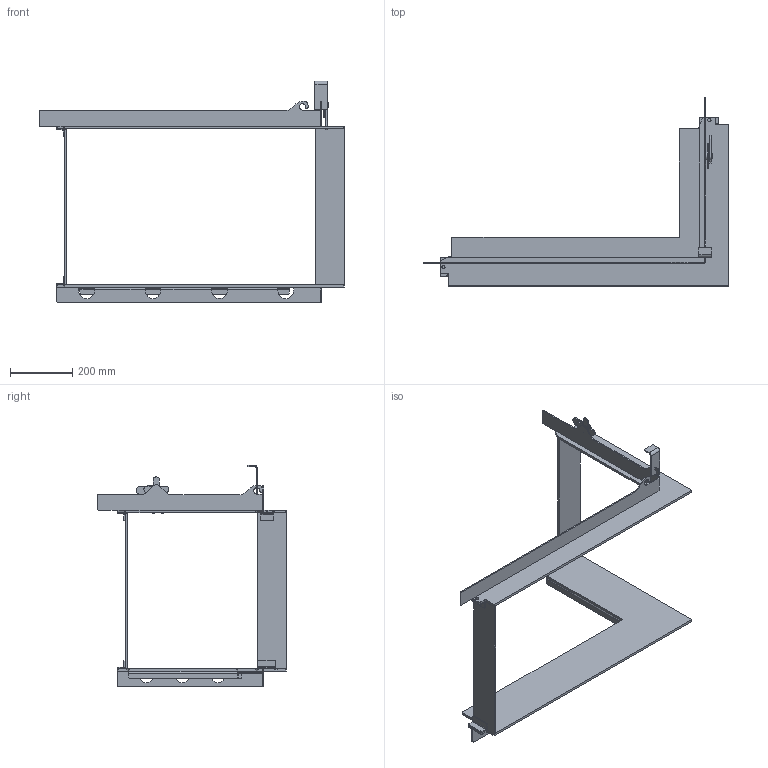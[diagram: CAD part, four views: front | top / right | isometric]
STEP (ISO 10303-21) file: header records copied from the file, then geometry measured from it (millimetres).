
FILE_DESCRIPTION(/* description */ (''),/* implementation_level */ '2;1');
FILE_NAME(/* name */ 'C:\Users\jku\Desktop\RII_50x80x42_Gen1_Einbaurahmen_Rechts.stp',/* time_stamp */ '2019-07-15T14:37:47+02:00',/* author */ ('JKU'),/* organization */ (''),/* preprocessor_version */ 'ST-DEVELOPER v17',/* originating_system */ 'Autodesk Inventor 2019',/* authorisation */ '');
FILE_SCHEMA (('AUTOMOTIVE_DESIGN { 1 0 10303 214 3 1 1 }'));
Length unit declared in the file: millimetre
Products named in the file (1): 2019-02207
Bounding box: 974.9 x 602.5 x 709 mm (x, y, z)
Volume: 4312440.4 mm3; surface area: 1431833.3 mm2
Topology: 21 solids, 21 shells, 486 faces, 1274 edges, 816 vertices
Faces by surface type: plane 264, cylinder 206, bspline 12, cone 4
Full cylindrical faces by diameter (mm): 10 x1, 10.21 x2, 16 x1, 20 x2, 25 x2
Entity records: 15273 total; most frequent: CARTESIAN_POINT 2829, DIRECTION 2620, ORIENTED_EDGE 2548, EDGE_CURVE 1274, AXIS2_PLACEMENT_3D 895, LINE 830, VECTOR 830, VERTEX_POINT 816
